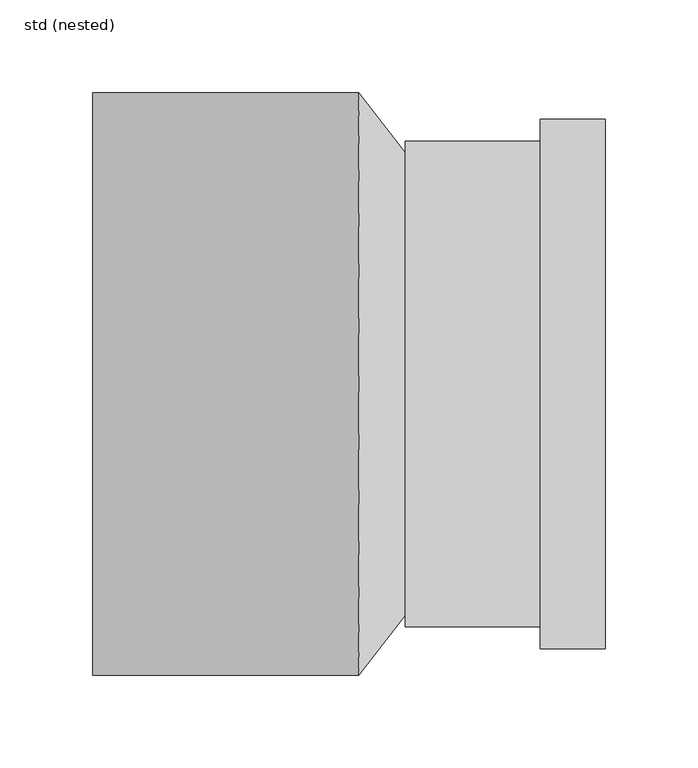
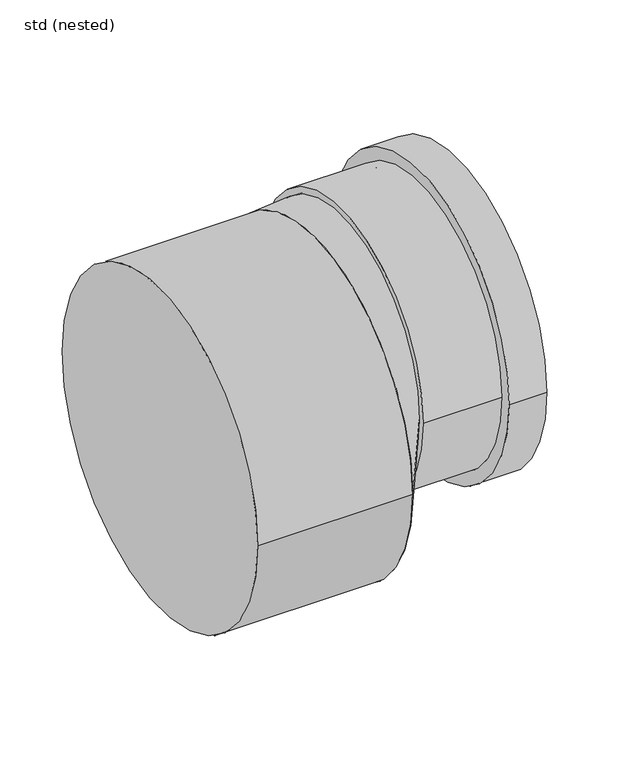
"""IFC4 building model written with IfcOpenShell, lengths in millimetres: pipe fitting geometry, NLRS_52_PIF_UN_SN4 SN8 verloop FM -SH_Dyka : std (nested)."""

from ifc_helpers import new_model, si_unit, point, frame, origin, origin_2d, place, context, project, spatial, polyline, circle_curve, trimmed, segment, composite_curve, outline, extrude, source, transform, mapped, element, save
from ifc_brep_helpers import plane_surface, cylinder_surface, revolved_surface, spline_surface, advanced_brep


def std_nested_246b4ba0(model_context):
    return source(origin(), model_context, "Body", "SolidModel", [
        advanced_brep(
        [(277.0, 143.0, 45.0), (277.0, -143.0, 45.0), (277.0, 125.0, 45.0), (277.0, -125.0, 45.0), (242.0, 125.0, 45.0), (242.0, -125.0, 45.0), (242.0, 143.0, 45.0), (242.0, -143.0, 45.0), (169.0, 131.2, 45.0), (169.0, -131.2, 45.0), (169.0, 125.0, 45.0), (169.0, -125.0, 45.0), (242.0, -131.2, 45.0), (242.0, 131.2, 45.0)],
        [
            (0, 1, circle_curve(frame((277.0, 0.0, 45.0), z_axis=(1.0, 0.0, 0.0), x_axis=(0.0, -1.0, 0.0)), 143.0)),
            (1, 0, circle_curve(frame((277.0, 0.0, 45.0), z_axis=(1.0, 0.0, 0.0), x_axis=(0.0, -1.0, 0.0)), 143.0)),
            (2, 3, circle_curve(frame((277.0, 0.0, 45.0), z_axis=(-1.0, 0.0, 0.0), x_axis=(0.0, -1.0, 0.0)), 125.0)),
            (3, 2, circle_curve(frame((277.0, 0.0, 45.0), z_axis=(-1.0, 0.0, 0.0), x_axis=(0.0, -1.0, 0.0)), 125.0)),
            (2, 4),
            (4, 5, circle_curve(frame((242.0, 0.0, 45.0), z_axis=(-1.0, 0.0, 0.0), x_axis=(0.0, -1.0, 0.0)), 125.0)),
            (5, 3),
            (5, 4, circle_curve(frame((242.0, 0.0, 45.0), z_axis=(-1.0, 0.0, 0.0), x_axis=(0.0, -1.0, 0.0)), 125.0)),
            (0, 6),
            (6, 7, circle_curve(frame((242.0, 0.0, 45.0), z_axis=(1.0, 0.0, 0.0), x_axis=(0.0, -1.0, 0.0)), 143.0)),
            (7, 1),
            (7, 6, circle_curve(frame((242.0, 0.0, 45.0), z_axis=(1.0, 0.0, 0.0), x_axis=(0.0, -1.0, 0.0)), 143.0)),
            (8, 9, circle_curve(frame((169.0, 0.0, 45.0), z_axis=(-1.0, 0.0, 0.0), x_axis=(0.0, -1.0, 0.0)), 131.2)),
            (9, 8, circle_curve(frame((169.0, 0.0, 45.0), z_axis=(-1.0, 0.0, 0.0), x_axis=(0.0, -1.0, 0.0)), 131.2)),
            (10, 11, circle_curve(frame((169.0, 0.0, 45.0), z_axis=(1.0, 0.0, 0.0), x_axis=(0.0, -1.0, 0.0)), 125.0)),
            (11, 10, circle_curve(frame((169.0, 0.0, 45.0), z_axis=(1.0, 0.0, 0.0), x_axis=(0.0, -1.0, 0.0)), 125.0)),
            (11, 5),
            (4, 10),
            (9, 12),
            (12, 13, circle_curve(frame((242.0, 0.0, 45.0), z_axis=(-1.0, 0.0, 0.0), x_axis=(0.0, -1.0, 0.0)), 131.2)),
            (13, 8),
            (13, 12, circle_curve(frame((242.0, 0.0, 45.0), z_axis=(-1.0, 0.0, 0.0), x_axis=(0.0, -1.0, 0.0)), 131.2)),
        ],
        [
            plane_surface(frame((277.0, -125.0, 45.0), z_axis=(1.0, 0.0, 0.0), x_axis=(0.0, 0.0, 1.0))),
            revolved_surface(polyline([(242.0, -125.0, 45.0), (277.0, -125.0, 45.0)]), (242.0, 0.0, 45.0), (-1.0, 0.0, 0.0)),
            cylinder_surface(frame((169.0, 0.0, 45.0), z_axis=(1.0, 0.0, 0.0), x_axis=(0.0, -1.0, 0.0)), 143.0),
            plane_surface(frame((169.0, -125.0, 45.0), z_axis=(-1.0, 0.0, 0.0), x_axis=(0.0, 0.0, -1.0))),
            revolved_surface(polyline([(169.0, -125.0, 45.0), (242.0, -125.0, 45.0)]), (169.0, 0.0, 45.0), (-1.0, 0.0, 0.0)),
            cylinder_surface(frame((169.0, 0.0, 45.0), z_axis=(1.0, 0.0, 0.0), x_axis=(0.0, -1.0, 0.0)), 131.2),
            plane_surface(frame((242.0, -125.0, 45.0), z_axis=(-1.0, 0.0, 0.0), x_axis=(0.0, 0.0, -1.0))),
        ],
        [
            (0, [[1, 2], [3, 4]]),
            (1, [[-3, 5, 6, 7]]),
            (1, [[-4, -7, 8, -5]]),
            (2, [[-1, 9, 10, 11]]),
            (2, [[-2, -11, 12, -9]]),
            (3, [[13, 14], [15, 16]]),
            (4, [[-16, 17, -6, 18]]),
            (4, [[-15, -18, -8, -17]]),
            (5, [[-14, 19, 20, 21]]),
            (5, [[-13, -21, 22, -19]]),
            (6, [[-12, -10], [-20, -22]]),
        ],
    ),
        advanced_brep(
        [(169.0, -125.0, 45.0), (169.0, 125.0, 45.0), (144.0, -157.5, 0.0), (144.0, 157.5, 0.0)],
        [
            (0, 1, circle_curve(frame((169.0, 0.0, 45.0), z_axis=(1.0, 0.0, 0.0), x_axis=(0.0, 1.0, 0.0)), 125.0)),
            (1, 0, circle_curve(frame((169.0, 0.0, 45.0), z_axis=(1.0, 0.0, 0.0), x_axis=(0.0, 1.0, 0.0)), 125.0)),
            (2, 3, circle_curve(frame((144.0, 0.0, 0.0), z_axis=(-1.0, 0.0, 0.0), x_axis=(0.0, 1.0, 0.0)), 157.5)),
            (3, 2, circle_curve(frame((144.0, 0.0, 0.0), z_axis=(-1.0, 0.0, 0.0), x_axis=(0.0, 1.0, 0.0)), 157.5)),
            (3, 1),
            (0, 2),
        ],
        [
            plane_surface(frame((169.0, 0.0, 45.0), z_axis=(1.0, 0.0, 0.0), x_axis=(0.0, 0.0, -1.0))),
            plane_surface(frame((144.0, 0.0, 0.0), z_axis=(-1.0, 0.0, 0.0), x_axis=(0.0, 0.0, -1.0))),
            spline_surface(2, 1, [[(144.0, -157.5, 0.0), (169.0, -125.0, 45.0)], [(144.0, -157.5, -157.5), (169.0, -125.0, -80.0)], [(144.0, 0.0, -157.5), (169.0, 0.0, -80.0)], [(144.0, 157.5, -157.5), (169.0, 125.0, -80.0)], [(144.0, 157.5, 0.0), (169.0, 125.0, 45.0)]], [3, 2, 3], [2, 2], [0.0, 1.0, 2.0], [0.0, 1.0], weights=[[1.0, 1.0], [0.7071067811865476, 0.7071067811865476], [1.0, 1.0], [0.7071067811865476, 0.7071067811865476], [1.0, 1.0]]),
            spline_surface(2, 1, [[(144.0, 157.5, 0.0), (169.0, 125.0, 45.0)], [(144.0, 157.5, 157.5), (169.0, 125.0, 170.0)], [(144.0, 0.0, 157.5), (169.0, 0.0, 170.0)], [(144.0, -157.5, 157.5), (169.0, -125.0, 170.0)], [(144.0, -157.5, 0.0), (169.0, -125.0, 45.0)]], [3, 2, 3], [2, 2], [0.0, 1.0, 2.0], [0.0, 1.0], weights=[[1.0, 1.0], [0.7071067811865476, 0.7071067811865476], [1.0, 1.0], [0.7071067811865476, 0.7071067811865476], [1.0, 1.0]]),
        ],
        [
            (0, [[1, 2]]),
            (1, [[3, 4]]),
            (2, [[-4, 5, -1, 6]]),
            (3, [[-3, -6, -2, -5]]),
        ],
    ),
        extrude(outline(composite_curve([segment(trimmed(circle_curve(origin_2d(), 157.5), [point((-157.5, 0.0))], [point((157.5, 0.0))], False, "CARTESIAN"), True, "CONTINUOUS"), segment(trimmed(circle_curve(origin_2d(), 157.5), [point((157.5, 0.0))], [point((-157.5, 0.0))], False, "CARTESIAN"), True, "CONTINUOUS")], self_intersect=False)), frame((0.0, 0.0, 0.0), z_axis=(1.0, 0.0, 0.0), x_axis=(0.0, 1.0, 0.0)), (0.0, 0.0, 1.0), 144.0),
    ])


if __name__ == "__main__":
    model = new_model("IFC4")
    model_context = context("Model", 3, world=origin())
    ifc_project = project(units=[si_unit("LENGTHUNIT", "METRE", prefix="MILLI")], contexts=[model_context])
    site = spatial("IfcSite", under=ifc_project)
    building = spatial("IfcBuilding", under=site)
    placement = place(None, origin())
    std_nested_shape = std_nested_246b4ba0(model_context)
    element("IfcPipeFitting", 1, ObjectType="NLRS_52_PIF_UN_SN4 SN8 verloop FM -SH_Dyka : std (nested)", at=placement, inside=building, context=model_context, shape_type="MappedRepresentation", body=[
        mapped(std_nested_shape, transform((0.0, 0.0, 0.0), x_axis=(1.0, 0.0, 0.0), y_axis=(0.0, 1.0, 0.0), z_axis=(0.0, 0.0, 1.0))),
    ])
    save(model, "model.ifc")
